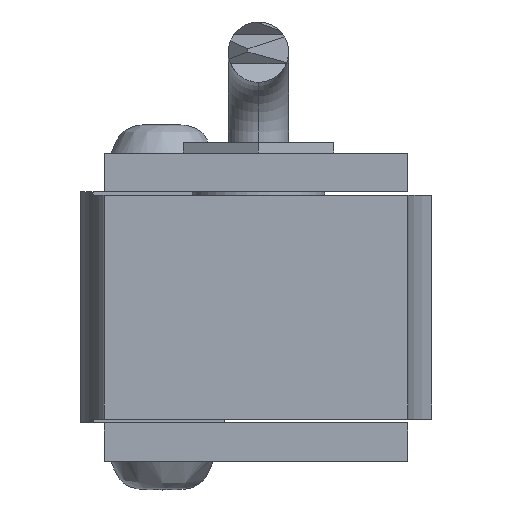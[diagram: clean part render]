
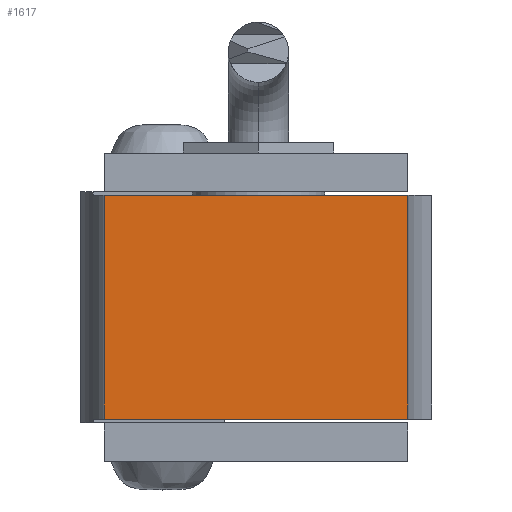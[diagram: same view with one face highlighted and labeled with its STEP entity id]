
A CAD part, left-side view. The second image highlights one B-rep face of the part: STEP entity #1617.
In plain terms, the highlighted planar face has unit normal (-1, 0, 0).
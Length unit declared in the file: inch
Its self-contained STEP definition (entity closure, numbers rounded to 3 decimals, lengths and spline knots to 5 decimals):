
#147 = EDGE_CURVE ( 'NONE', #5142, #455, #1441, .T. ) ;
#446 = EDGE_CURVE ( 'NONE', #5086, #635, #4060, .T. ) ;
#455 = VERTEX_POINT ( 'NONE', #4103 ) ;
#479 = ORIENTED_EDGE ( 'NONE', *, *, #446, .T. ) ;
#532 = ORIENTED_EDGE ( 'NONE', *, *, #4758, .F. ) ;
#576 = ORIENTED_EDGE ( 'NONE', *, *, #147, .F. ) ;
#635 = VERTEX_POINT ( 'NONE', #2098 ) ;
#650 = EDGE_CURVE ( 'NONE', #635, #455, #2266, .T. ) ;
#893 = ORIENTED_EDGE ( 'NONE', *, *, #650, .T. ) ;
#1392 = EDGE_LOOP ( 'NONE', ( #893, #576, #532, #479 ) ) ;
#1441 = LINE ( 'NONE', #1442, #1443 ) ;
#1442 = CARTESIAN_POINT ( 'NONE',  ( -1., 0., 0.232 ) ) ;
#1443 = VECTOR ( 'NONE', #1444, 39.37008 ) ;
#1444 = DIRECTION ( 'NONE',  ( 0., -1., 0. ) ) ;
#1617 = ADVANCED_FACE ( 'NONE', ( #3085 ), #3086, .F. ) ;
#2098 = CARTESIAN_POINT ( 'NONE',  ( -1., -0.315, -0.232 ) ) ;
#2266 = LINE ( 'NONE', #2267, #2268 ) ;
#2267 = CARTESIAN_POINT ( 'NONE',  ( -1., -0.315, 0. ) ) ;
#2268 = VECTOR ( 'NONE', #2269, 39.37008 ) ;
#2269 = DIRECTION ( 'NONE',  ( 0., 0., 1. ) ) ;
#2708 = CARTESIAN_POINT ( 'NONE',  ( -1., 0.315, -0.232 ) ) ;
#3085 = FACE_OUTER_BOUND ( 'NONE', #1392, .T. ) ;
#3086 = PLANE ( 'NONE',  #3087 ) ;
#3087 = AXIS2_PLACEMENT_3D ( 'NONE', #3088, #3089, #3090 ) ;
#3088 = CARTESIAN_POINT ( 'NONE',  ( -1., -0.315, 0.232 ) ) ;
#3089 = DIRECTION ( 'NONE',  ( 1., 0., 0. ) ) ;
#3090 = DIRECTION ( 'NONE',  ( 0., 0., -1. ) ) ;
#3214 = CARTESIAN_POINT ( 'NONE',  ( -1., 0.315, 0.232 ) ) ;
#3243 = LINE ( 'NONE', #3244, #3245 ) ;
#3244 = CARTESIAN_POINT ( 'NONE',  ( -1., 0.315, 0. ) ) ;
#3245 = VECTOR ( 'NONE', #3246, 39.37008 ) ;
#3246 = DIRECTION ( 'NONE',  ( 0., 0., 1. ) ) ;
#4060 = LINE ( 'NONE', #4061, #4062 ) ;
#4061 = CARTESIAN_POINT ( 'NONE',  ( -1., -0.01133, -0.232 ) ) ;
#4062 = VECTOR ( 'NONE', #4063, 39.37008 ) ;
#4063 = DIRECTION ( 'NONE',  ( 0., -1., 0. ) ) ;
#4103 = CARTESIAN_POINT ( 'NONE',  ( -1., -0.315, 0.232 ) ) ;
#4758 = EDGE_CURVE ( 'NONE', #5086, #5142, #3243, .T. ) ;
#5086 = VERTEX_POINT ( 'NONE', #2708 ) ;
#5142 = VERTEX_POINT ( 'NONE', #3214 ) ;
